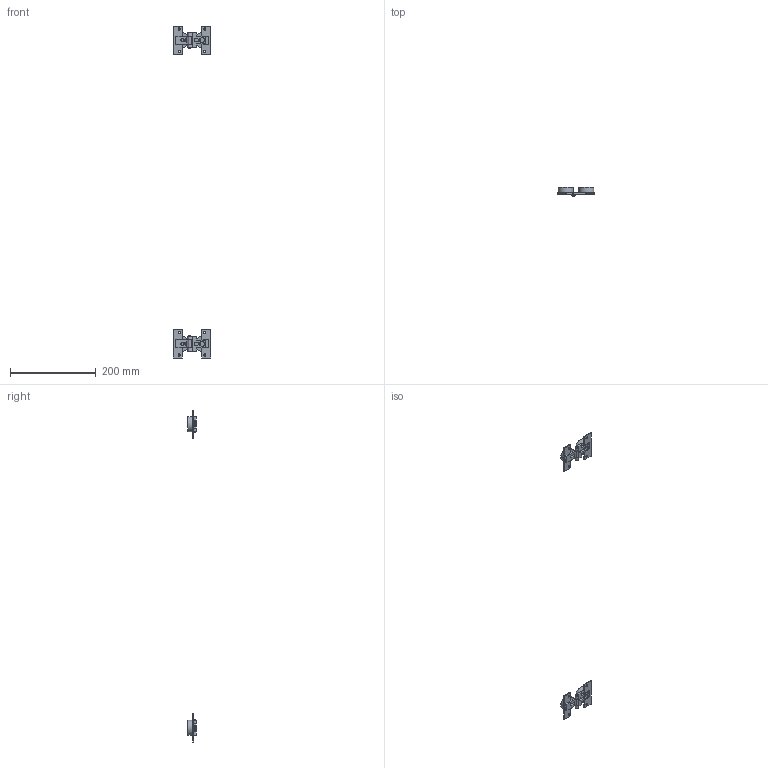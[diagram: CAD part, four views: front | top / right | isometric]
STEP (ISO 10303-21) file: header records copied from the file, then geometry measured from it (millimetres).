
FILE_DESCRIPTION( ( 'STEP AP214' ), '1' );
FILE_NAME( 'D:/Yug/2020/Sliding_&_Folding_Door_System/WingLine_L/Stay closed set & Centre Hinge/QC/9278694.stp', '2020-06-15T11:51:42', ( '' ), ( '' ), ' ', 'PARTsolutions', ' ' );
FILE_SCHEMA( ( 'AUTOMOTIVE_DESIGN { 1 0 10303 214 1 1 1 1 }' ) );
Length unit declared in the file: millimetre
Products named in the file (2): 9278694; _ 46787
Assembly tree (2 placements, depth 2):
  9278694
    _ 46787  x2
Bounding box: 88 x 20 x 773 mm (x, y, z)
Volume: 67468.2 mm3; surface area: 28438.5 mm2
Topology: 2 solids, 2 shells, 156 faces, 436 edges, 278 vertices
Faces by surface type: plane 114, cylinder 42
Full cylindrical faces by diameter (mm): 3 x8, 4.92 x4, 5.1 x8, 35 x4
Entity records: 3101 total; most frequent: DIRECTION 429, CARTESIAN_POINT 416, ORIENTED_EDGE 402, EDGE_CURVE 201, AXIS2_PLACEMENT_3D 147, LINE 135, VECTOR 135, VERTEX_POINT 134
